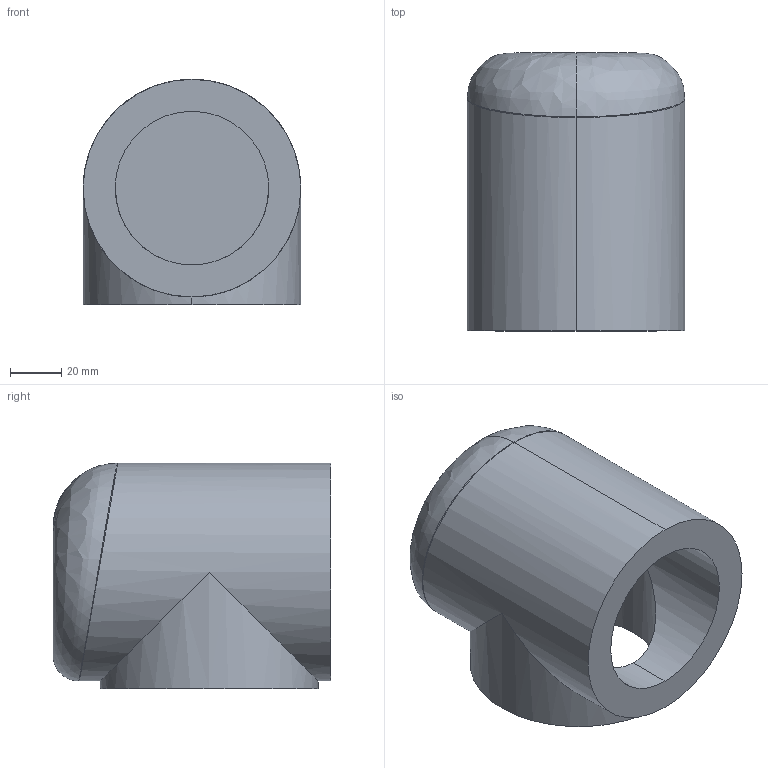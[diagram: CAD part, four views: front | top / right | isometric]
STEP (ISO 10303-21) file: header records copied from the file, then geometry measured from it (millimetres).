
FILE_DESCRIPTION (( 'STEP AP214' ), '1' );
FILE_NAME ('LINK4.STEP', '2020-09-20T14:04:39', ( '' ), ( '' ), 'SwSTEP 2.0', 'SolidWorks 2019', '' );
FILE_SCHEMA (( 'AUTOMOTIVE_DESIGN' ));
Length unit declared in the file: millimetre
Products named in the file (1): LINK4
Bounding box: 85 x 108.5 x 88 mm (x, y, z)
Surface area: 66726.9 mm2 (no closed solid volume)
Topology: 0 solids, 2 shells, 18 faces, 40 edges, 26 vertices
Faces by surface type: cylinder 10, plane 6, bspline 2
Entity records: 1304 total; most frequent: CARTESIAN_POINT 727, ORIENTED_EDGE 80, DIRECTION 66, EDGE_CURVE 40, AXIS2_PLACEMENT_3D 27, VERTEX_POINT 26, UNCERTAINTY_MEASURE_WITH_UNIT 20, EDGE_LOOP 20
